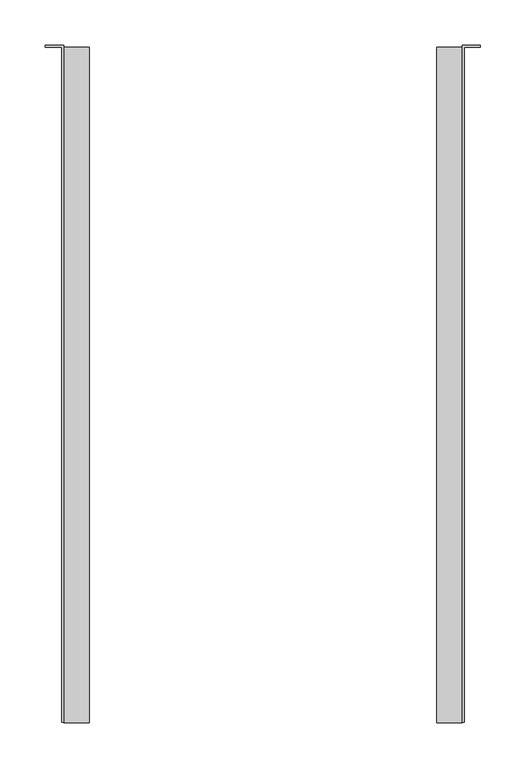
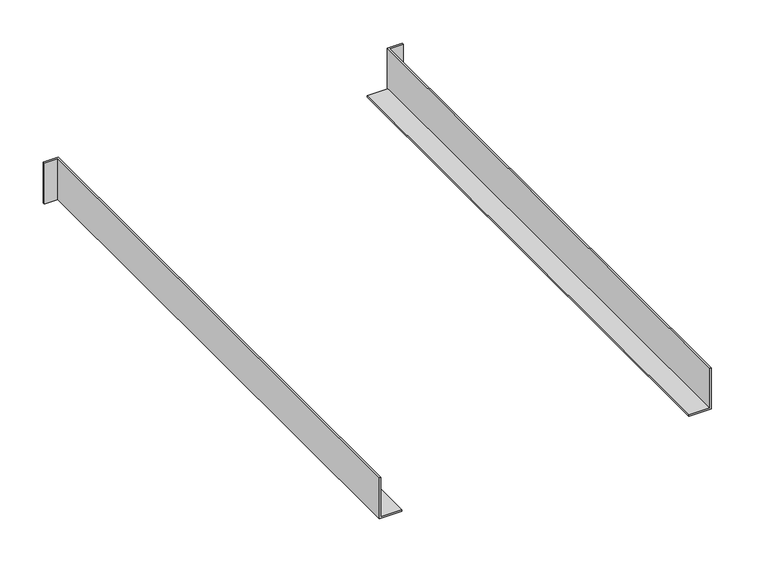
"""IFC4 building model written with IfcOpenShell, lengths in millimetres: proxy geometry, Вл_Монтажный комплект : Вл_Монтажный комплект."""

from ifc_helpers import new_model, si_unit, origin, place, context, project, spatial, faceted_brep, source, transform, mapped, element, save


def electrical_equipment_5c134813(model_context):
    return source(origin(), model_context, "Body", "Brep", [
        faceted_brep([(191.0, 742.0, 0.0), (191.0, 742.0, 2.0), (219.0, 742.0, 2.0), (219.0, 742.0, 0.0), (221.0, 0.0, 0.0), (221.0, 0.0, 58.0), (219.0, 0.0, 58.0), (219.0, 0.0, 2.0), (191.0, 0.0, 2.0), (191.0, 0.0, 0.0), (221.0, 742.0, 0.0), (221.0, 742.0, 58.0), (239.0, 742.0, 58.0), (239.0, 744.0, 58.0), (219.0, 744.0, 58.0), (219.0, 744.0, 0.0), (239.0, 744.0, 0.0), (239.0, 742.0, 0.0)], [[[0, 1, 2, 3]], [[4, 5, 6, 7, 8, 9]], [[5, 4, 10, 11]], [[6, 5, 11, 12, 13, 14]], [[7, 6, 14, 15, 3, 2]], [[2, 1, 8, 7]], [[1, 0, 9, 8]], [[4, 9, 0, 3, 15, 16, 17, 10]], [[17, 12, 11, 10]], [[14, 13, 16, 15]], [[13, 12, 17, 16]]]),
        faceted_brep([(-219.0, 742.0, 2.0), (-191.0, 742.0, 2.0), (-191.0, 742.0, 0.0), (-219.0, 742.0, 0.0), (-221.0, 0.0, 0.0), (-191.0, 0.0, 0.0), (-191.0, 0.0, 2.0), (-219.0, 0.0, 2.0), (-219.0, 0.0, 58.0), (-221.0, 0.0, 58.0), (-219.0, 744.0, 58.0), (-239.0, 744.0, 58.0), (-239.0, 742.0, 58.0), (-221.0, 742.0, 58.0), (-239.0, 742.0, 0.0), (-239.0, 744.0, 0.0), (-219.0, 744.0, 0.0), (-221.0, 742.0, 0.0)], [[[0, 1, 2, 3]], [[4, 5, 6, 7, 8, 9]], [[10, 11, 12, 13, 9, 8]], [[14, 15, 16, 3, 2, 5, 4, 17]], [[2, 1, 6, 5]], [[1, 0, 7, 6]], [[10, 8, 7, 0, 3, 16]], [[4, 9, 13, 17]], [[12, 14, 17, 13]], [[12, 11, 15, 14]], [[11, 10, 16, 15]]]),
    ])


if __name__ == "__main__":
    model = new_model("IFC4")
    model_context = context("Model", 3, world=origin())
    ifc_project = project(units=[si_unit("LENGTHUNIT", "METRE", prefix="MILLI")], contexts=[model_context])
    site = spatial("IfcSite", under=ifc_project)
    building = spatial("IfcBuilding", under=site)
    placement = place(None, origin())
    electrical_equipment_shape = electrical_equipment_5c134813(model_context)
    element("IfcBuildingElementProxy", 1, Name="Вл_Монтажный комплект : Вл_Монтажный комплект", ObjectType="Вл_Монтажный комплект : Вл_Монтажный комплект", at=placement, inside=building, context=model_context, shape_type="MappedRepresentation", body=[
        mapped(electrical_equipment_shape, transform((0.0, 0.0, 0.0), x_axis=(1.0, 0.0, 0.0), y_axis=(0.0, 1.0, 0.0), z_axis=(0.0, 0.0, 1.0))),
    ])
    save(model, "model.ifc")
